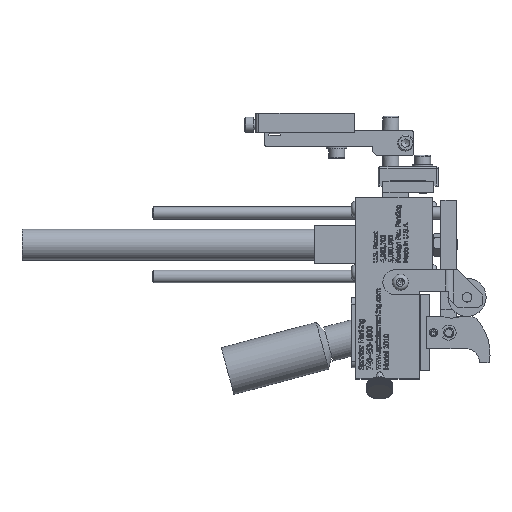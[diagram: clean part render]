
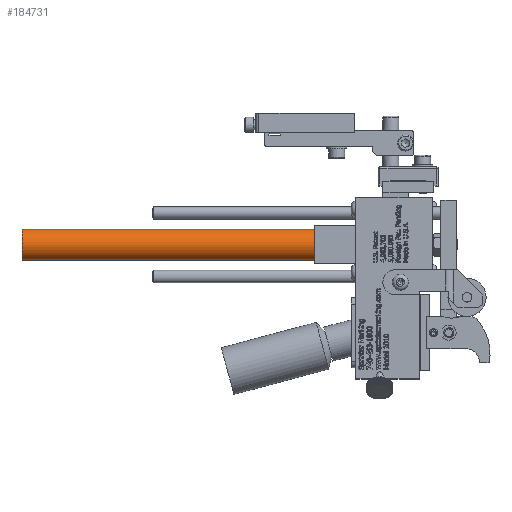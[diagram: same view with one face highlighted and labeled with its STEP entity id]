
A CAD part, top view. The second image highlights one B-rep face of the part: STEP entity #184731.
In plain terms, the highlighted cylindrical face has radius 7.747 mm (diameter 15.494 mm), a full revolution.
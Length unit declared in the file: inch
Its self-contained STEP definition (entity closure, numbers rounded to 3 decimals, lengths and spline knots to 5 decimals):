
#184680=CARTESIAN_POINT('',(-1.90763,0.0491,-0.5075));
#184681=VERTEX_POINT('',#184680);
#184682=CARTESIAN_POINT('',(-1.90763,0.0491,-0.8125));
#184683=DIRECTION('',(1.0,0.0,0.0));
#184684=DIRECTION('',(0.0,0.0,-1.0));
#184685=AXIS2_PLACEMENT_3D('',#184682,#184683,#184684);
#184686=CIRCLE('',#184685,0.305);
#184687=EDGE_CURVE('',#184681,#184681,#184686,.T.);
#184697=CARTESIAN_POINT('',(-7.65763,0.0491,-0.5075));
#184698=VERTEX_POINT('',#184697);
#184699=CARTESIAN_POINT('',(-7.65763,0.0491,-0.8125));
#184700=DIRECTION('',(1.0,0.0,0.0));
#184701=DIRECTION('',(0.0,0.0,-1.0));
#184702=AXIS2_PLACEMENT_3D('',#184699,#184700,#184701);
#184703=CIRCLE('',#184702,0.305);
#184704=EDGE_CURVE('',#184698,#184698,#184703,.T.);
#184720=CARTESIAN_POINT('',(-1.90763,0.0491,-0.8125));
#184721=DIRECTION('',(-1.0,0.,0.0));
#184722=DIRECTION('',(0.0,0.0,-1.0));
#184723=AXIS2_PLACEMENT_3D('',#184720,#184721,#184722);
#184724=CYLINDRICAL_SURFACE('',#184723,0.305);
#184725=ORIENTED_EDGE('',*,*,#184704,.T.);
#184726=EDGE_LOOP('',(#184725));
#184727=FACE_OUTER_BOUND('',#184726,.T.);
#184728=ORIENTED_EDGE('',*,*,#184687,.F.);
#184729=EDGE_LOOP('',(#184728));
#184730=FACE_BOUND('',#184729,.T.);
#184731=ADVANCED_FACE('',(#184727,#184730),#184724,.T.);
